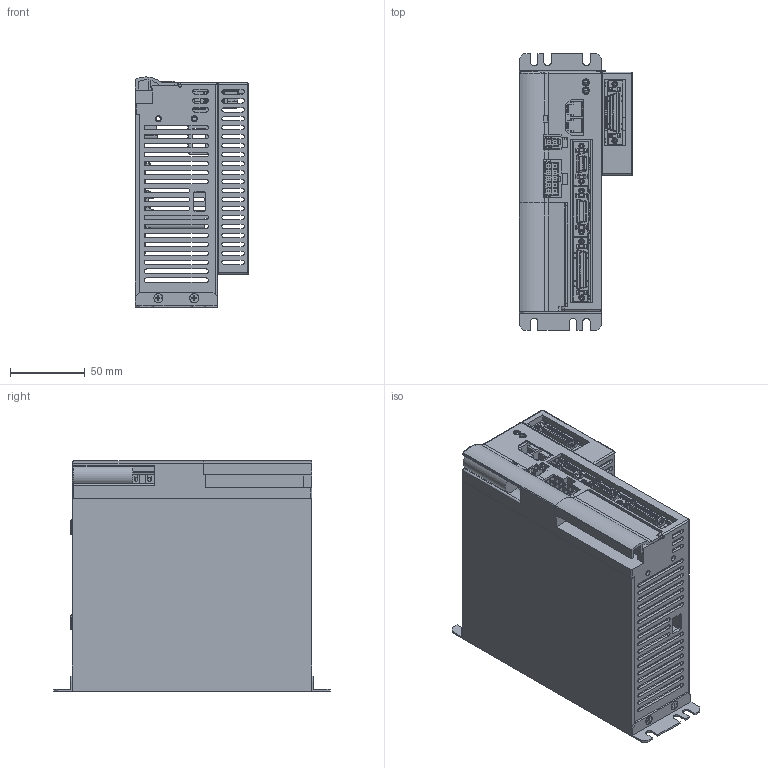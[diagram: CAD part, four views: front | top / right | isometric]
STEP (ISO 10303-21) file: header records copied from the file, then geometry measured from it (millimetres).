
FILE_DESCRIPTION( (''), '2;1');
FILE_NAME ('CA25-M10-_BC_3D.stp','2016-05-25T10:06:52',(''),(''),'spGate 11.3.10','spGate','');
FILE_SCHEMA (('AUTOMOTIVE_DESIGN'));
Length unit declared in the file: millimetre
Products named in the file (306): Assembly; CA25-M10-_BC_3D-prt0; CA25-M10-_BC_3D-prt1; CA25-M10-_BC_3D-prt2; CA25-M10-_BC_3D-prt3; CA25-M10-_BC_3D-prt4; CA25-M10-_BC_3D-prt5; CA25-M10-_BC_3D-prt6; CA25-M10-_BC_3D-prt7; CA25-M10-_BC_3D-prt8; CA25-M10-_BC_3D-prt9; CA25-M10-_BC_3D-prt10; CA25-M10-_BC_3D-prt11; CA25-M10-_BC_3D-prt12; CA25-M10-_BC_3D-prt13; CA25-M10-_BC_3D-prt14; CA25-M10-_BC_3D-prt15; CA25-M10-_BC_3D-prt16; CA25-M10-_BC_3D-prt17; CA25-M10-_BC_3D-prt18; CA25-M10-_BC_3D-prt19; CA25-M10-_BC_3D-prt20; CA25-M10-_BC_3D-prt21; CA25-M10-_BC_3D-prt22; CA25-M10-_BC_3D-prt23; CA25-M10-_BC_3D-prt24; CA25-M10-_BC_3D-prt25; CA25-M10-_BC_3D-prt26; CA25-M10-_BC_3D-prt27; CA25-M10-_BC_3D-prt28; CA25-M10-_BC_3D-prt29; CA25-M10-_BC_3D-prt30; CA25-M10-_BC_3D-prt31; CA25-M10-_BC_3D-prt32; CA25-M10-_BC_3D-prt33; CA25-M10-_BC_3D-prt34; CA25-M10-_BC_3D-prt35; CA25-M10-_BC_3D-prt36; CA25-M10-_BC_3D-prt37; CA25-M10-_BC_3D-prt38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
Assembly tree (305 placements, depth 2):
  Assembly
    CA25-M10-_BC_3D-prt0
    CA25-M10-_BC_3D-prt1
    CA25-M10-_BC_3D-prt2
    CA25-M10-_BC_3D-prt3
    CA25-M10-_BC_3D-prt4
    CA25-M10-_BC_3D-prt5
    CA25-M10-_BC_3D-prt6
    CA25-M10-_BC_3D-prt7
    CA25-M10-_BC_3D-prt8
    CA25-M10-_BC_3D-prt9
    CA25-M10-_BC_3D-prt10
    CA25-M10-_BC_3D-prt11
    CA25-M10-_BC_3D-prt12
    CA25-M10-_BC_3D-prt13
    CA25-M10-_BC_3D-prt14
    CA25-M10-_BC_3D-prt15
    CA25-M10-_BC_3D-prt16
    CA25-M10-_BC_3D-prt17
    CA25-M10-_BC_3D-prt18
    CA25-M10-_BC_3D-prt19
    CA25-M10-_BC_3D-prt20
    CA25-M10-_BC_3D-prt21
    CA25-M10-_BC_3D-prt22
    CA25-M10-_BC_3D-prt23
    CA25-M10-_BC_3D-prt24
    CA25-M10-_BC_3D-prt25
    CA25-M10-_BC_3D-prt26
    CA25-M10-_BC_3D-prt27
    CA25-M10-_BC_3D-prt28
    CA25-M10-_BC_3D-prt29
    CA25-M10-_BC_3D-prt30
    CA25-M10-_BC_3D-prt31
    CA25-M10-_BC_3D-prt32
    CA25-M10-_BC_3D-prt33
    CA25-M10-_BC_3D-prt34
    CA25-M10-_BC_3D-prt35
    CA25-M10-_BC_3D-prt36
    CA25-M10-_BC_3D-prt37
    CA25-M10-_BC_3D-prt38
    CA25-M10-_BC_3D-prt39
    CA25-M10-_BC_3D-prt40
    CA25-M10-_BC_3D-prt41
    CA25-M10-_BC_3D-prt42
    CA25-M10-_BC_3D-prt43
    CA25-M10-_BC_3D-prt44
    CA25-M10-_BC_3D-prt45
    CA25-M10-_BC_3D-prt46
    CA25-M10-_BC_3D-prt47
    CA25-M10-_BC_3D-prt48
    CA25-M10-_BC_3D-prt49
    CA25-M10-_BC_3D-prt50
    CA25-M10-_BC_3D-prt51
    CA25-M10-_BC_3D-prt52
    CA25-M10-_BC_3D-prt53
    CA25-M10-_BC_3D-prt54
    CA25-M10-_BC_3D-prt55
    CA25-M10-_BC_3D-prt56
    CA25-M10-_BC_3D-prt57
    CA25-M10-_BC_3D-prt58
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Bounding box: 76 x 185 x 153.99 mm (x, y, z)
Volume: 255276.5 mm3; surface area: 251493.2 mm2
Topology: 47 solids, 49 shells, 5437 faces, 15256 edges, 10446 vertices
Faces by surface type: plane 4301, cylinder 1008, bspline 112, sphere 16
Entity records: 306151 total; most frequent: CARTESIAN_POINT 38861, ORIENTED_EDGE 29922, DIRECTION 28597, COLOUR_RGB 20708, PRESENTATION_STYLE_ASSIGNMENT 20708, STYLED_ITEM 20708, DRAUGHTING_PRE_DEFINED_CURVE_FONT 15222, CURVE_STYLE 15222
